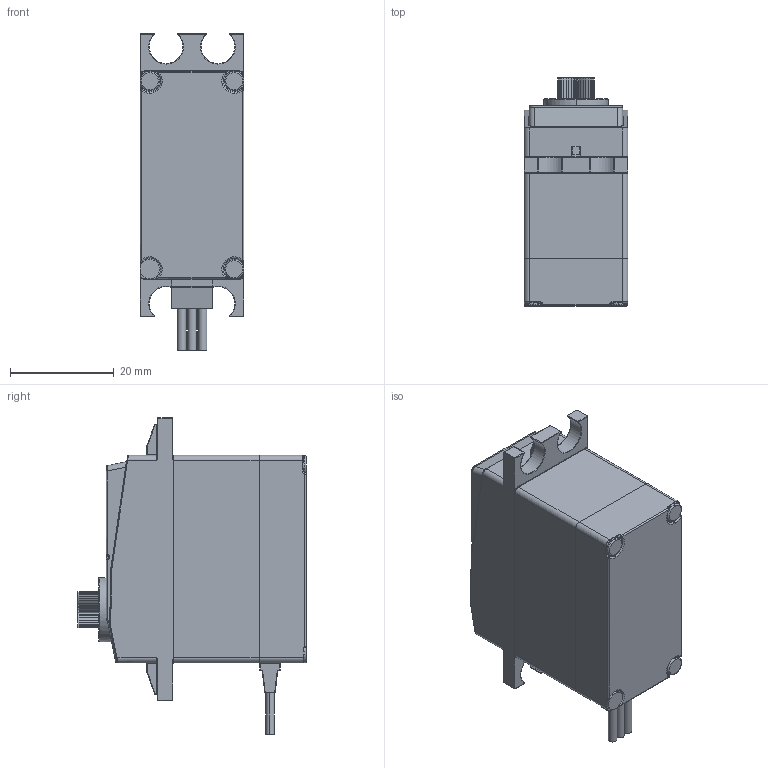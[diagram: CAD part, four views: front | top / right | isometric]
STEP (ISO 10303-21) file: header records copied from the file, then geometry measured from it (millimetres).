
FILE_DESCRIPTION (( 'STEP AP214' ), '1' );
FILE_NAME ('DS3225SG 25KG.STEP', '2025-04-24T11:47:30', ( 'INES' ), ( '' ), 'SwSTEP 2.0', 'SolidWorks 2023', '' );
FILE_SCHEMA (( 'AUTOMOTIVE_DESIGN' ));
Length unit declared in the file: millimetre
Products named in the file (1): DS3225SG 25KG
Bounding box: 20 x 43.95 x 61 mm (x, y, z)
Volume: 31354.5 mm3; surface area: 7168.9 mm2
Topology: 1 solids, 1 shells, 616 faces, 1550 edges, 862 vertices
Faces by surface type: cylinder 236, plane 198, torus 80, sphere 62, bspline 40
Entity records: 19131 total; most frequent: CARTESIAN_POINT 4947, DIRECTION 3063, ORIENTED_EDGE 2940, EDGE_CURVE 1470, AXIS2_PLACEMENT_3D 1125, VERTEX_POINT 862, VECTOR 813, LINE 813
